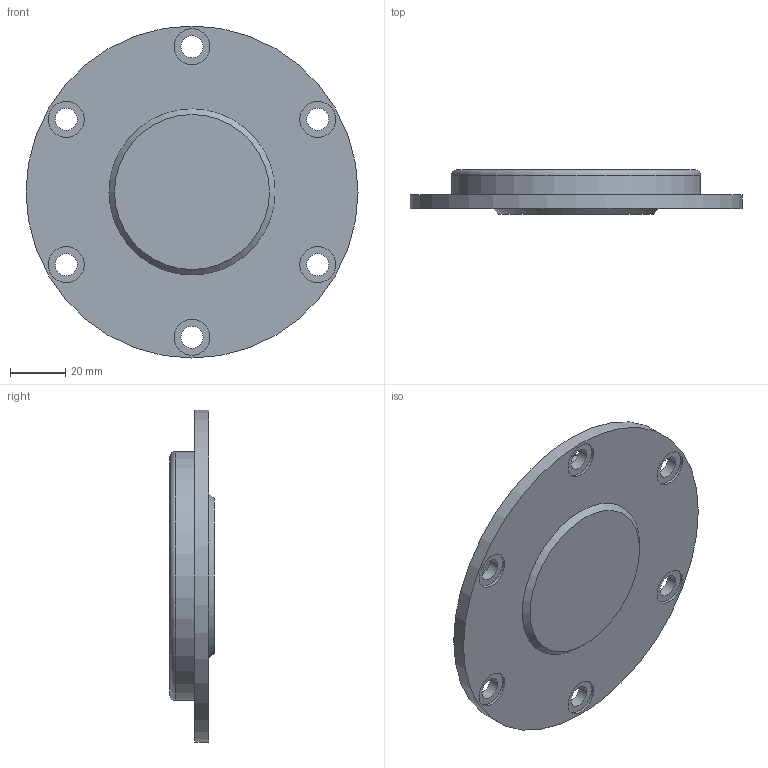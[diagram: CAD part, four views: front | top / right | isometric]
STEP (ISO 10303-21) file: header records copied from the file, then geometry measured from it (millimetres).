
FILE_DESCRIPTION(/* description */ (''),/* implementation_level */ '2;1');
FILE_NAME(/* name */ 'G:\YandexDisk\Работа\Inventor\Универ\ОАП\Лабораторные работы\ЛР6 Создание сборок\Редуктор\stp\Подшипниковый щит 2 2.stp',/* time_stamp */ '2023-11-17T06:34:36+03:00',/* author */ ('34740'),/* organization */ (''),/* preprocessor_version */ 'ST-DEVELOPER v18.1',/* originating_system */ 'Autodesk Inventor 2022',/* authorisation */ '');
FILE_SCHEMA (('AUTOMOTIVE_DESIGN { 1 0 10303 214 3 1 1 }'));
Length unit declared in the file: millimetre
Products named in the file (1): Подшипниковый 
щит 2 2
Bounding box: 120 x 16 x 120 mm (x, y, z)
Volume: 78135 mm3; surface area: 28893.8 mm2
Topology: 1 solids, 1 shells, 30 faces, 57 edges, 38 vertices
Faces by surface type: cylinder 15, plane 11, torus 3, cone 1
Full cylindrical faces by diameter (mm): 8 x6, 13 x6, 74 x1, 90 x1, 120 x1
Entity records: 847 total; most frequent: DIRECTION 160, CARTESIAN_POINT 126, ORIENTED_EDGE 114, AXIS2_PLACEMENT_3D 72, EDGE_CURVE 57, EDGE_LOOP 51, CIRCLE 41, VERTEX_POINT 38
